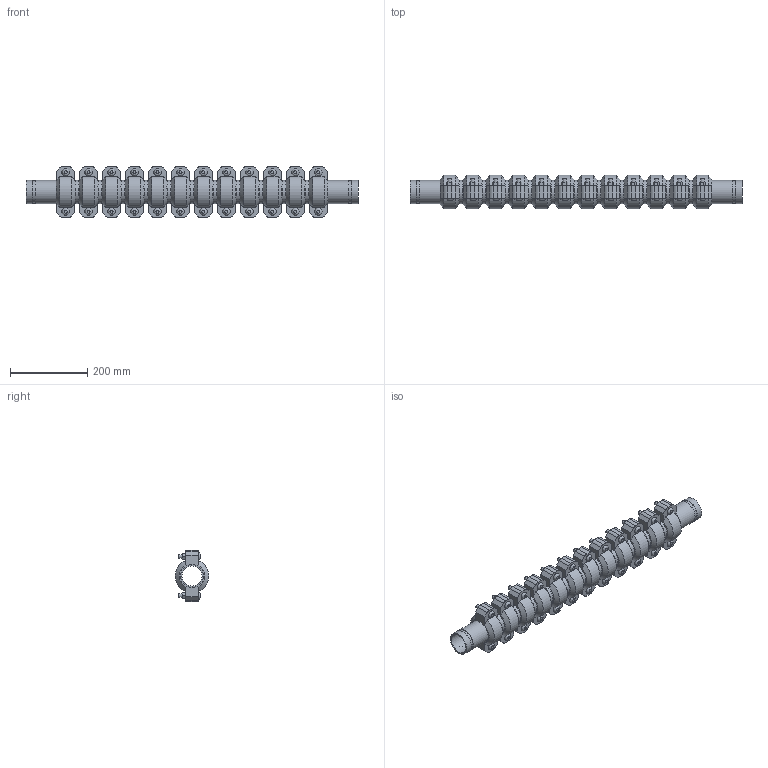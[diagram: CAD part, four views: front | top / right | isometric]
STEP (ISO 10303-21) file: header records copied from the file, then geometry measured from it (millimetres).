
FILE_DESCRIPTION(/* description */ ('VIC SS EXPANSION JOINT 12 COUPLINGS NEUTRAL STYLE 155P (OGS) (POTABLE WATER) ','CAx-IF Rec.Pracs.---Representation and Presentation of Product Manufacturing Information (PMI)---4.0---2014-10-13'),/* implementation_level */ '2;1');
FILE_NAME(/* name */ 'C:\Users\kkamble\AppData\Roaming\Autodesk\ApplicationPlugins\Victaulic.Temp\A871\Victaulic_SS_Expansion Joint_Neutral_12 Couplings_Style 155P (OGS)-Potable Water_12 Coup_Neut_2 (50).stp',/* time_stamp */ '2021-07-16T16:29:37+06:00',/* author */ ('kkamble'),/* organization */ ('Victaulic'),/* preprocessor_version */ 'ST-DEVELOPER v17.2',/* originating_system */ 'Autodesk Inventor 2019',/* authorisation */ '');
FILE_SCHEMA (('AP242_MANAGED_MODEL_BASED_3D_ENGINEERING_MIM_LF { 1 0 10303 442 1 1 4 }'));
Length unit declared in the file: inch
Products named in the file (4): 155P-02.0; Nipple-02.0; Nipple-02.0_1; 075-02.0
Assembly tree (25 placements, depth 2):
  155P-02.0
    Nipple-02.0  x2
    Nipple-02.0_1  x11
    075-02.0  x12
Bounding box: 860.55 x 87.12 x 132.59 mm (x, y, z)
Volume: 2926407.2 mm3; surface area: 804046.1 mm2
Topology: 25 solids, 49 shells, 840 faces, 1986 edges, 1392 vertices
Faces by surface type: plane 510, cylinder 258, cone 48, bspline 24
Full cylindrical faces by diameter (mm): 9.525 x48, 11.43 x24, 52.502 x13, 53.975 x12, 57.15 x26, 60.325 x63
Entity records: 2913 total; most frequent: CARTESIAN_POINT 509, DIRECTION 493, ORIENTED_EDGE 386, AXIS2_PLACEMENT_3D 200, EDGE_CURVE 193, VERTEX_POINT 138, EDGE_LOOP 107, LINE 93
